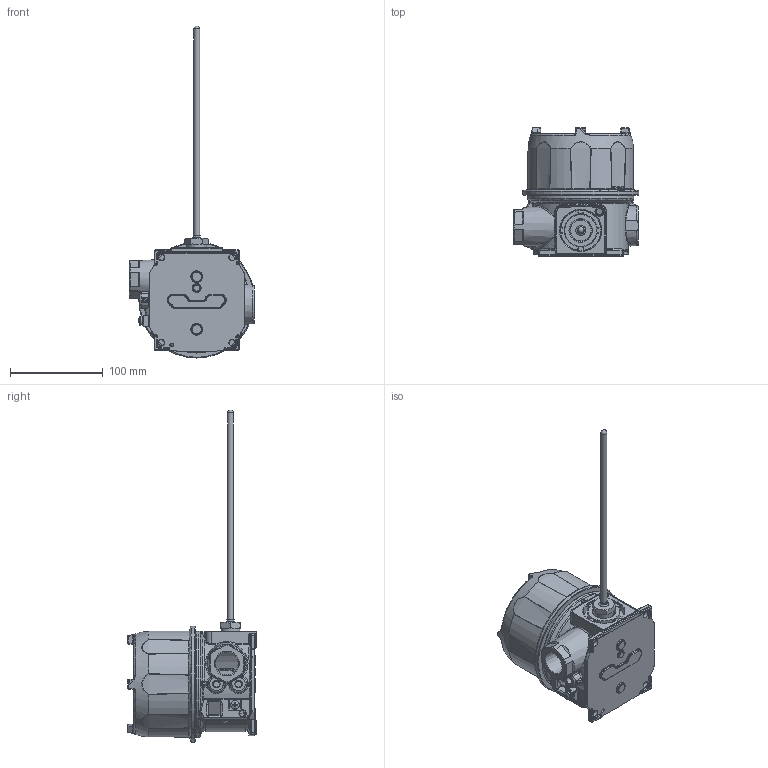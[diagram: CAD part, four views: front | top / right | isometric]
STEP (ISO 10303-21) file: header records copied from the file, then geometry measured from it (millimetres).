
FILE_DESCRIPTION (( 'STEP AP214' ), '1' );
FILE_NAME ('1X-TL3_ALLMODELS_V4.STEP', '2025-03-13T15:36:52', ( '' ), ( '' ), 'SwSTEP 2.0', 'SolidWorks 2023', '' );
FILE_SCHEMA (( 'AUTOMOTIVE_DESIGN' ));
Length unit declared in the file: inch
Products named in the file (1): 1X-TL3_ALLMODELS_V4
Bounding box: 135 x 138.46 x 357.62 mm (x, y, z)
Surface area: 104758.3 mm2 (no closed solid volume)
Topology: 0 solids, 23 shells, 1454 faces, 4708 edges, 3048 vertices
Faces by surface type: plane 560, bspline 402, cylinder 184, torus 167, cone 106, sphere 35
Full cylindrical faces by diameter (mm): 3.3 x1, 6.426 x1, 6.8 x1, 7.722 x1, 9.347 x1, 9.5 x1, 9.844 x1, 23.812 x1, 70.104 x1, 114.046 x1, 124.714 x1
Entity records: 74241 total; most frequent: CARTESIAN_POINT 37743, ORIENTED_EDGE 7537, DIRECTION 6479, EDGE_CURVE 4567, VERTEX_POINT 3018, LINE 2375, VECTOR 2375, AXIS2_PLACEMENT_3D 2052
